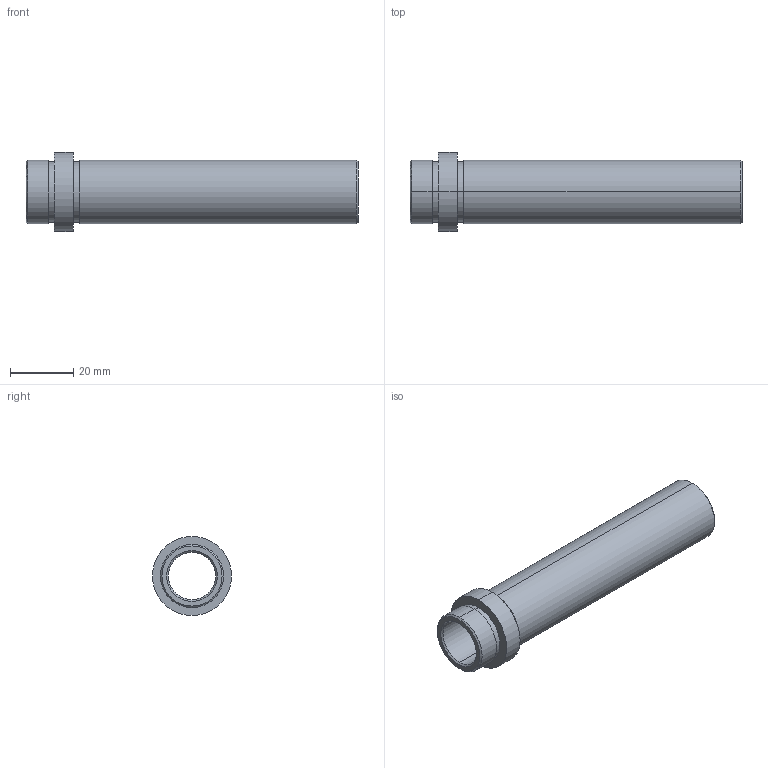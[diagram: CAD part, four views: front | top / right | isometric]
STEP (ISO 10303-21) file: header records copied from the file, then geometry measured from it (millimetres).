
FILE_DESCRIPTION( ( 'STEP AP203' ), '1' );
FILE_NAME( 'C:/Projects/D21 - 15x96.step', '2002-12-31T22:29:45', ( ' ' ), ( ' ' ), 'XStep 1.0', ' ', ' ' );
FILE_SCHEMA( ( 'CONFIG_CONTROL_DESIGN' ) );
Length unit declared in the file: metre
Products named in the file (1): 1
Bounding box: 105 x 25 x 25 mm (x, y, z)
Volume: 15342 mm3; surface area: 12313.5 mm2
Topology: 1 solids, 1 shells, 26 faces, 52 edges, 32 vertices
Faces by surface type: revolution 20, bspline 6
Entity records: 773 total; most frequent: CARTESIAN_POINT 169, DIRECTION 106, ORIENTED_EDGE 104, EDGE_CURVE 52, AXIS2_PLACEMENT_3D 33, EDGE_LOOP 32, VERTEX_POINT 32, CIRCLE 32
